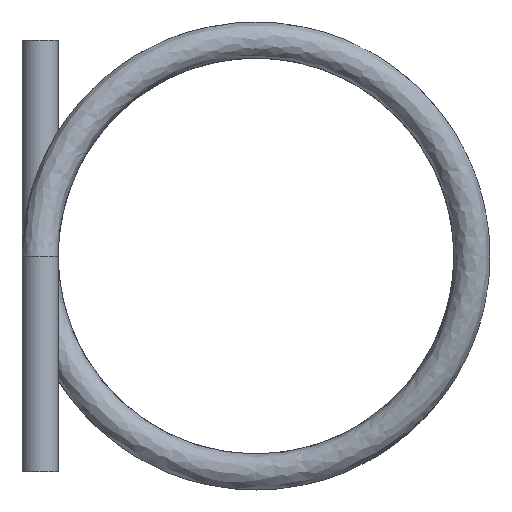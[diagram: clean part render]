
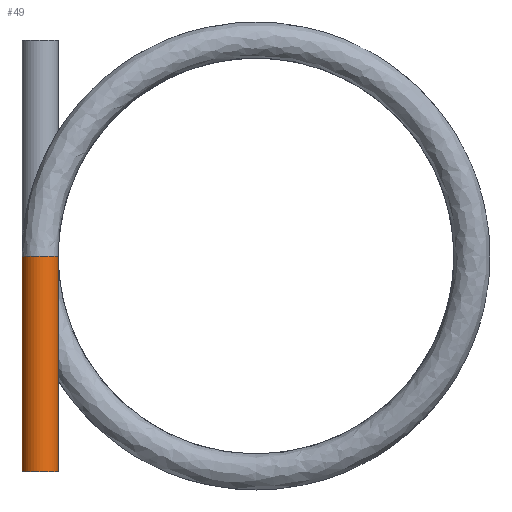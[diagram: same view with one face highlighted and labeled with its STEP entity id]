
A CAD part, front view. The second image highlights one B-rep face of the part: STEP entity #49.
In plain terms, the highlighted cylindrical face has radius 2.5 mm (diameter 5 mm), a full revolution.
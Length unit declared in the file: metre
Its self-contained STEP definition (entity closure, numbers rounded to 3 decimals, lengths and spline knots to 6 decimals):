
#49 = ADVANCED_FACE( '', ( #60, #61 ), #62, .T. );
#60 = FACE_OUTER_BOUND( '', #646, .T. );
#61 = FACE_OUTER_BOUND( '', #647, .T. );
#62 = CYLINDRICAL_SURFACE( '', #648, 0.0025 );
#646 = EDGE_LOOP( '', ( #662 ) );
#647 = EDGE_LOOP( '', ( #663 ) );
#648 = AXIS2_PLACEMENT_3D( '', #664, #665, #666 );
#662 = ORIENTED_EDGE( '', *, *, #674, .F. );
#663 = ORIENTED_EDGE( '', *, *, #671, .F. );
#664 = CARTESIAN_POINT( '', ( -0.03, 0., -0.03 ) );
#665 = DIRECTION( '', ( 0., 0., -1. ) );
#666 = DIRECTION( '', ( 1., 0., 0. ) );
#671 = EDGE_CURVE( '', #675, #675, #676, .T. );
#674 = EDGE_CURVE( '', #681, #681, #682, .T. );
#675 = VERTEX_POINT( '', #683 );
#676 = CIRCLE( '', #684, 0.0025 );
#681 = VERTEX_POINT( '', #689 );
#682 = CIRCLE( '', #690, 0.0025 );
#683 = CARTESIAN_POINT( '', ( -0.0275, 0., 0. ) );
#684 = AXIS2_PLACEMENT_3D( '', #691, #692, #693 );
#689 = CARTESIAN_POINT( '', ( -0.0325, 0., -0.03 ) );
#690 = AXIS2_PLACEMENT_3D( '', #700, #701, #702 );
#691 = CARTESIAN_POINT( '', ( -0.03, 0., 0. ) );
#692 = DIRECTION( '', ( 0., 0., 1. ) );
#693 = DIRECTION( '', ( 1., 0., 0. ) );
#700 = CARTESIAN_POINT( '', ( -0.03, 0., -0.03 ) );
#701 = DIRECTION( '', ( 0., 0., -1. ) );
#702 = DIRECTION( '', ( -1., 0., 0. ) );
